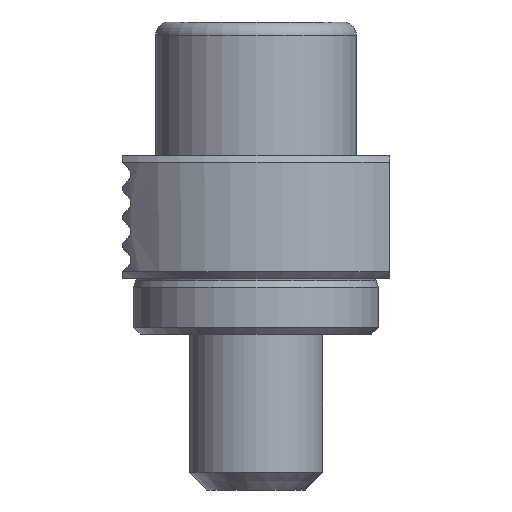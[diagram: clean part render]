
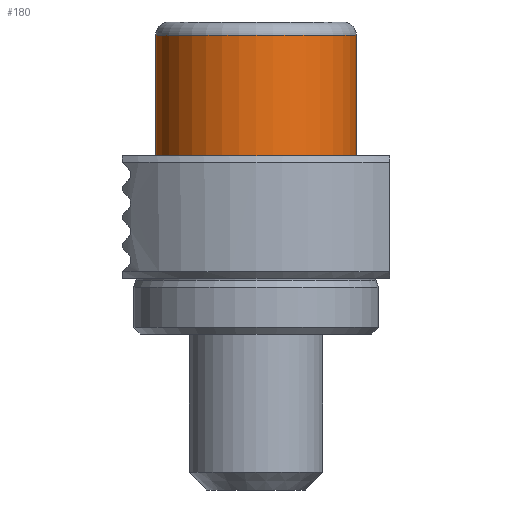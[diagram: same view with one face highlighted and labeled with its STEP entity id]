
A CAD part, left-side view. The second image highlights one B-rep face of the part: STEP entity #180.
In plain terms, the highlighted cylindrical face has radius 9 mm (diameter 18 mm), a full revolution.
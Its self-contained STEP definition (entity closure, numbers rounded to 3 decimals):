
#180=ADVANCED_FACE('',(#254,#256),#258,.T.);
#254=FACE_OUTER_BOUND('',#255,.T.);
#255=EDGE_LOOP('',(#622));
#256=FACE_OUTER_BOUND('',#257,.T.);
#257=EDGE_LOOP('',(#623));
#258=CYLINDRICAL_SURFACE('',#259,9.);
#259=AXIS2_PLACEMENT_3D('',#260,#261,#262);
#260=CARTESIAN_POINT('',(0.,0.,28.));
#261=DIRECTION('',(0.,0.,-1.));
#262=DIRECTION('',(0.,1.,0.));
#622=ORIENTED_EDGE('',*,*,#833,.T.);
#623=ORIENTED_EDGE('',*,*,#831,.T.);
#831=EDGE_CURVE('',#943,#943,#944,.F.);
#833=EDGE_CURVE('',#947,#947,#948,.T.);
#943=VERTEX_POINT('',#1141);
#944=CIRCLE('',#1142,9.);
#947=VERTEX_POINT('',#1151);
#948=CIRCLE('',#1152,9.);
#1141=CARTESIAN_POINT('',(0.,9.,16.));
#1142=AXIS2_PLACEMENT_3D('',#1143,#1144,#1145);
#1143=CARTESIAN_POINT('',(0.,0.,16.));
#1144=DIRECTION('',(0.,0.,-1.));
#1145=DIRECTION('',(0.,1.,0.));
#1151=CARTESIAN_POINT('',(0.,9.,26.8));
#1152=AXIS2_PLACEMENT_3D('',#1153,#1154,#1155);
#1153=CARTESIAN_POINT('',(0.,0.,26.8));
#1154=DIRECTION('',(0.,0.,-1.));
#1155=DIRECTION('',(0.,1.,0.));
